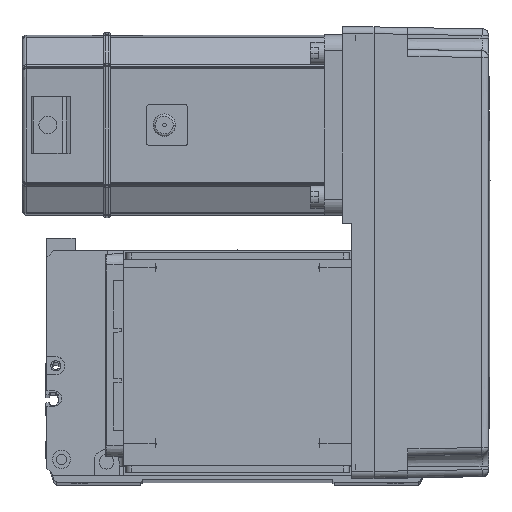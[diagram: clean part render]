
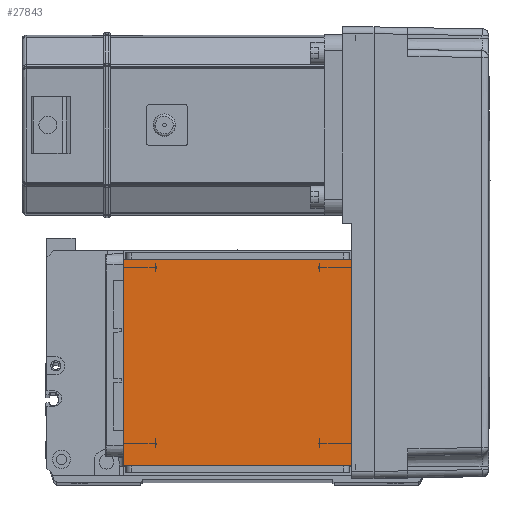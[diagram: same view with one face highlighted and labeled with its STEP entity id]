
A CAD part, top view. The second image highlights one B-rep face of the part: STEP entity #27843.
In plain terms, the highlighted planar face has unit normal (0, 0, 1).
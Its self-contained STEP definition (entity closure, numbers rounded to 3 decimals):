
#546 = CARTESIAN_POINT ( 'NONE',  ( 50.5, 20., 115. ) ) ;
#1229 = DIRECTION ( 'NONE',  ( 1., 0., 0. ) ) ;
#1803 = AXIS2_PLACEMENT_3D ( 'NONE', #54327, #41214, #1229 ) ;
#1886 = ORIENTED_EDGE ( 'NONE', *, *, #30620, .T. ) ;
#2265 = LINE ( 'NONE', #28628, #55433 ) ;
#3434 = VERTEX_POINT ( 'NONE', #18412 ) ;
#3540 = DIRECTION ( 'NONE',  ( 0., -1., 0. ) ) ;
#4176 = CARTESIAN_POINT ( 'NONE',  ( -50.5, 20., 115. ) ) ;
#5560 = ORIENTED_EDGE ( 'NONE', *, *, #49817, .F. ) ;
#6248 = VECTOR ( 'NONE', #3540, 1000. ) ;
#10826 = DIRECTION ( 'NONE',  ( 1., 0., 0. ) ) ;
#14650 = VERTEX_POINT ( 'NONE', #19482 ) ;
#18039 = LINE ( 'NONE', #30561, #6248 ) ;
#18412 = CARTESIAN_POINT ( 'NONE',  ( 50.5, 111.5, 115. ) ) ;
#19482 = CARTESIAN_POINT ( 'NONE',  ( -50.5, 111.5, 115. ) ) ;
#23097 = EDGE_CURVE ( 'NONE', #14650, #3434, #2265, .T. ) ;
#27843 = ADVANCED_FACE ( 'NONE', ( #51949 ), #36764, .T. ) ;
#28628 = CARTESIAN_POINT ( 'NONE',  ( -70.004, 111.5, 115. ) ) ;
#30561 = CARTESIAN_POINT ( 'NONE',  ( -50.5, 122., 115. ) ) ;
#30620 = EDGE_CURVE ( 'NONE', #40453, #3434, #39853, .T. ) ;
#31751 = DIRECTION ( 'NONE',  ( 0., 1., 0. ) ) ;
#32941 = EDGE_LOOP ( 'NONE', ( #39620, #43422, #5560, #1886 ) ) ;
#36764 = PLANE ( 'NONE',  #1803 ) ;
#38765 = DIRECTION ( 'NONE',  ( -1., 0., 0. ) ) ;
#39620 = ORIENTED_EDGE ( 'NONE', *, *, #23097, .F. ) ;
#39853 = LINE ( 'NONE', #45264, #47395 ) ;
#40453 = VERTEX_POINT ( 'NONE', #546 ) ;
#40861 = VECTOR ( 'NONE', #38765, 1000. ) ;
#41214 = DIRECTION ( 'NONE',  ( 0., 0., 1. ) ) ;
#43422 = ORIENTED_EDGE ( 'NONE', *, *, #50173, .T. ) ;
#45264 = CARTESIAN_POINT ( 'NONE',  ( 50.5, 122., 115. ) ) ;
#47395 = VECTOR ( 'NONE', #31751, 1000. ) ;
#48776 = VERTEX_POINT ( 'NONE', #4176 ) ;
#49817 = EDGE_CURVE ( 'NONE', #40453, #48776, #50527, .T. ) ;
#50173 = EDGE_CURVE ( 'NONE', #14650, #48776, #18039, .T. ) ;
#50527 = LINE ( 'NONE', #56701, #40861 ) ;
#51949 = FACE_OUTER_BOUND ( 'NONE', #32941, .T. ) ;
#54327 = CARTESIAN_POINT ( 'NONE',  ( 0., 0., 115. ) ) ;
#55433 = VECTOR ( 'NONE', #10826, 1000. ) ;
#56701 = CARTESIAN_POINT ( 'NONE',  ( -70.004, 20., 115. ) ) ;
